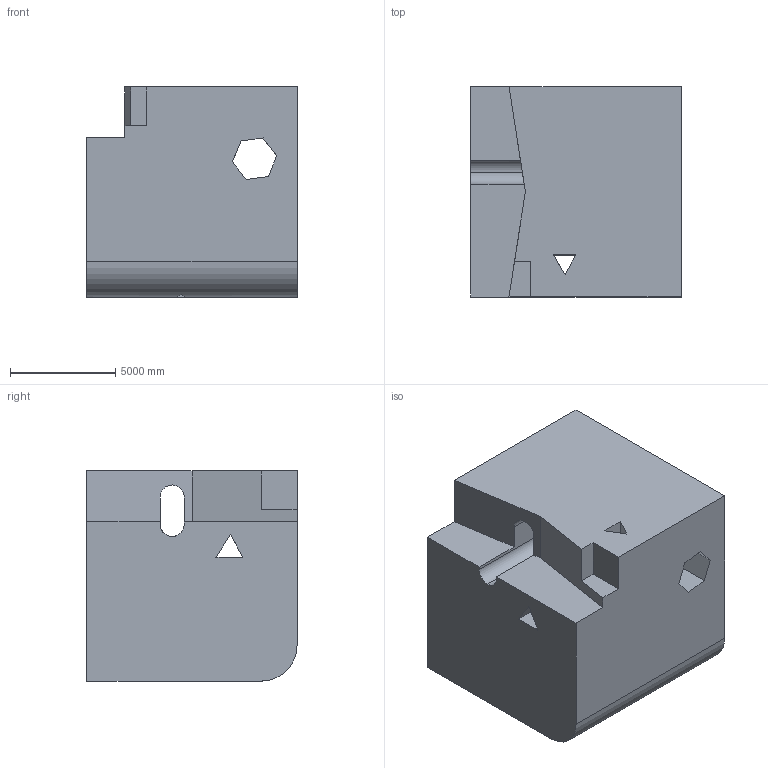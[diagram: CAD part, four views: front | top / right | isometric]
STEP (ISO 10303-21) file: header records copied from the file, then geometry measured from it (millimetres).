
FILE_DESCRIPTION (( 'STEP AP203' ), '1' );
FILE_NAME ('1730.STEP', '2022-08-19T12:09:49', ( 'user' ), ( '' ), 'SwSTEP 2.0', 'SolidWorks 2021', '' );
FILE_SCHEMA (( 'CONFIG_CONTROL_DESIGN' ));
Length unit declared in the file: centimetre
Products named in the file (1): 1730
Bounding box: 10000 x 10000 x 10000 mm (x, y, z)
Volume: 862035566547.1 mm3; surface area: 786416783.4 mm2
Topology: 1 solids, 1 shells, 42 faces, 135 edges, 90 vertices
Faces by surface type: plane 36, cylinder 6
Entity records: 1567 total; most frequent: CARTESIAN_POINT 295, ORIENTED_EDGE 270, DIRECTION 219, EDGE_CURVE 135, LINE 119, VECTOR 119, VERTEX_POINT 90, AXIS2_PLACEMENT_3D 50
